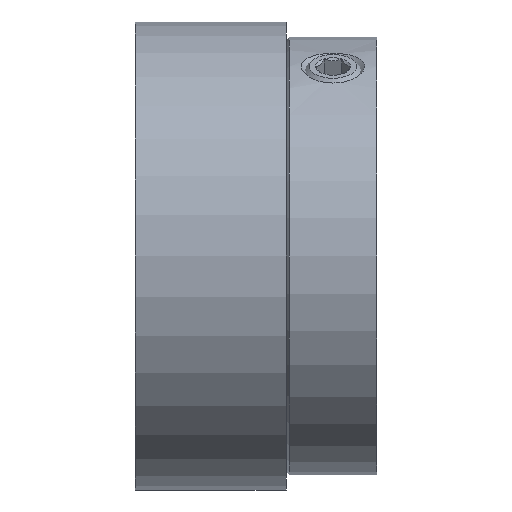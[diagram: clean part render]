
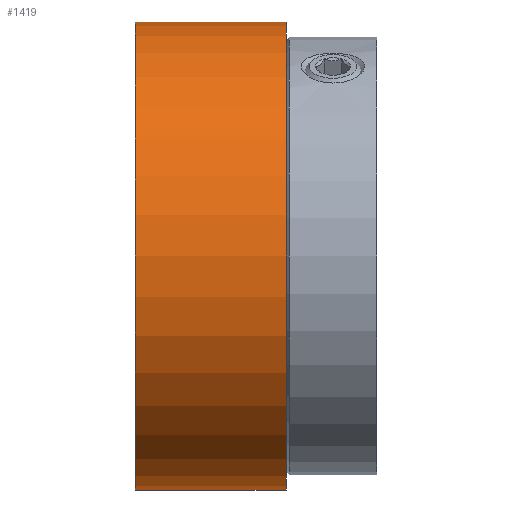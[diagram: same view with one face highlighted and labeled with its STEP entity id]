
A CAD part, front view. The second image highlights one B-rep face of the part: STEP entity #1419.
In plain terms, the highlighted cylindrical face has radius 15.5 mm (diameter 31 mm), a full revolution.
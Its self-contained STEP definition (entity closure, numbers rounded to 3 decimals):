
#175 = CARTESIAN_POINT ( 'NONE',  ( -9.08, 0.138, 15.5 ) ) ;
#179 = CARTESIAN_POINT ( 'NONE',  ( 0.92, 0.138, 15.5 ) ) ;
#316 = CARTESIAN_POINT ( 'NONE',  ( -9.08, 0.138, 0. ) ) ;
#320 = DIRECTION ( 'NONE',  ( 1., 0., 0. ) ) ;
#324 = DIRECTION ( 'NONE',  ( 0., 0., -1. ) ) ;
#492 = ORIENTED_EDGE ( 'NONE', *, *, #588, .F. ) ;
#493 = ORIENTED_EDGE ( 'NONE', *, *, #573, .T. ) ;
#529 = CIRCLE ( 'NONE', #617, 15.5 ) ;
#542 = CIRCLE ( 'NONE', #568, 15.5 ) ;
#568 = AXIS2_PLACEMENT_3D ( 'NONE', #968, #967, #966 ) ;
#573 = EDGE_CURVE ( 'NONE', #1206, #1206, #529, .T. ) ;
#588 = EDGE_CURVE ( 'NONE', #1209, #1209, #542, .T. ) ;
#617 = AXIS2_PLACEMENT_3D ( 'NONE', #1013, #1012, #1011 ) ;
#666 = EDGE_LOOP ( 'NONE', ( #493 ) ) ;
#670 = EDGE_LOOP ( 'NONE', ( #492 ) ) ;
#966 = DIRECTION ( 'NONE',  ( 0., 0., 1. ) ) ;
#967 = DIRECTION ( 'NONE',  ( -1., 0., 0. ) ) ;
#968 = CARTESIAN_POINT ( 'NONE',  ( -9.08, 0.138, 0. ) ) ;
#1011 = DIRECTION ( 'NONE',  ( 0., 0., 1. ) ) ;
#1012 = DIRECTION ( 'NONE',  ( -1., 0., 0. ) ) ;
#1013 = CARTESIAN_POINT ( 'NONE',  ( 0.92, 0.138, 0. ) ) ;
#1206 = VERTEX_POINT ( 'NONE', #179 ) ;
#1209 = VERTEX_POINT ( 'NONE', #175 ) ;
#1293 = FACE_OUTER_BOUND ( 'NONE', #670, .T. ) ;
#1296 = FACE_OUTER_BOUND ( 'NONE', #666, .T. ) ;
#1298 = CYLINDRICAL_SURFACE ( 'NONE', #1505, 15.5 ) ;
#1419 = ADVANCED_FACE ( 'NONE', ( #1293, #1296 ), #1298, .T. ) ;
#1505 = AXIS2_PLACEMENT_3D ( 'NONE', #316, #320, #324 ) ;
